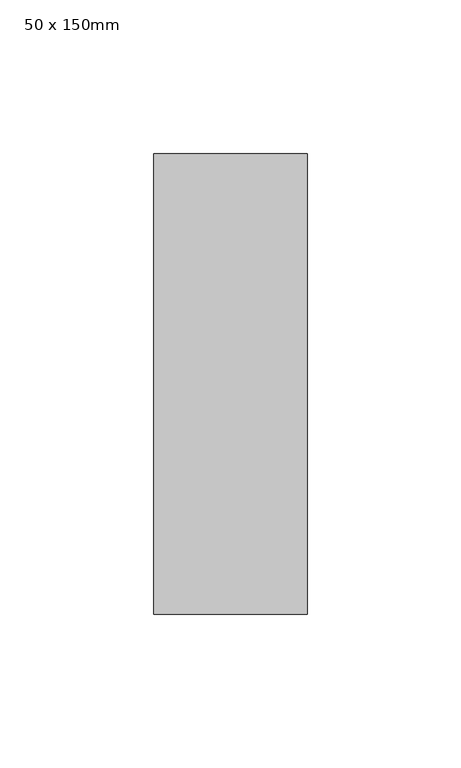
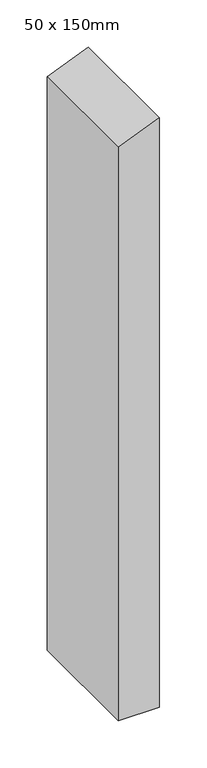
"""IFC4 building model written with IfcOpenShell, lengths in millimetres: member geometry, Prostokątny szpros : 50 x 150mm."""

from ifc_helpers import new_model, si_unit, frame, origin, place, context, project, spatial, polyline, outline, extrude, source, transform, mapped, element, save


def member_50_x_150mm_fa20a6f5(model_context):
    return source(origin(), model_context, "Body", "SweptSolid", [
        extrude(outline(polyline([(0.0, 0.0), (-20.7106781, -50.0), (-760.1397899, -50.0), (-760.1397899, 0.0), (0.0, 0.0)])), frame((0.0, -75.0, 0.0), z_axis=(0.0, 1.0, 0.0), x_axis=(0.0, 0.0, 1.0)), (0.0, 0.0, 1.0), 150.0),
    ])


if __name__ == "__main__":
    model = new_model("IFC4")
    model_context = context("Model", 3, world=origin())
    ifc_project = project(units=[si_unit("LENGTHUNIT", "METRE", prefix="MILLI")], contexts=[model_context])
    site = spatial("IfcSite", under=ifc_project)
    building = spatial("IfcBuilding", under=site)
    placement = place(None, origin())
    member_50_x_150mm_shape = member_50_x_150mm_fa20a6f5(model_context)
    element("IfcMember", 1, ObjectType="Prostokątny szpros : 50 x 150mm", at=placement, inside=building, context=model_context, shape_type="MappedRepresentation", body=[
        mapped(member_50_x_150mm_shape, transform((0.0, 0.0, 0.0), x_axis=(1.0, 0.0, 0.0), y_axis=(0.0, 1.0, 0.0), z_axis=(0.0, 0.0, 1.0))),
    ])
    save(model, "model.ifc")
